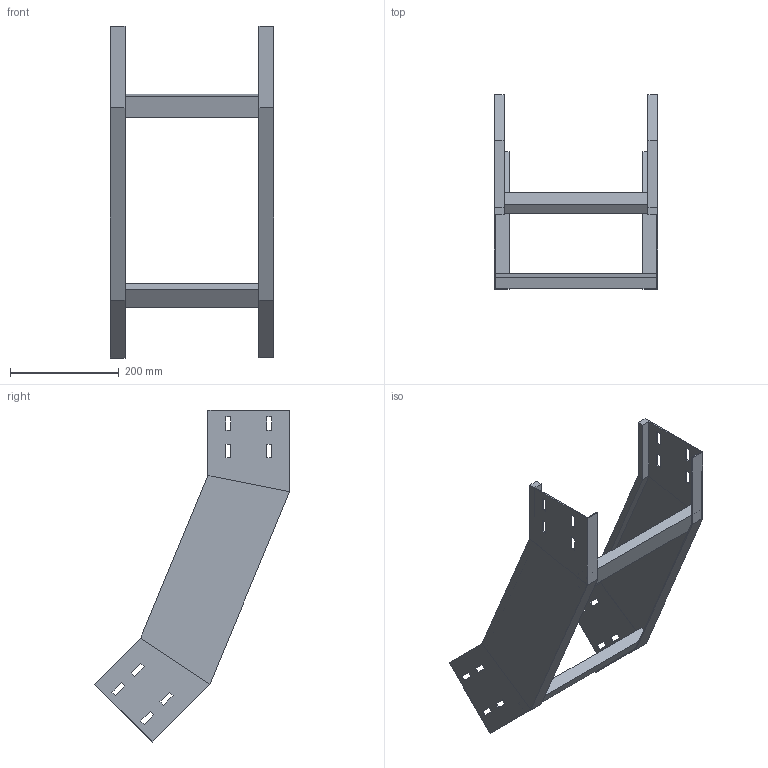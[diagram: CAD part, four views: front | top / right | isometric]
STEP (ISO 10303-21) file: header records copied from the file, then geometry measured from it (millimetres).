
FILE_DESCRIPTION (( 'STEP AP214' ), '1' );
FILE_NAME ('31J5F300.step', '2025-02-21T16:26:14', ( '' ), ( '' ), 'SwSTEP 2.0', 'SolidWorks 2023', '' );
FILE_SCHEMA (( 'AUTOMOTIVE_DESIGN' ));
Length unit declared in the file: millimetre
Products named in the file (3): TRAVERSINO_300; LONGH.SALITA_45°_H150_R500; 31J5F300
Assembly tree (4 placements, depth 2):
  31J5F300
    LONGH.SALITA_45°_H150_R500  x2
    TRAVERSINO_300  x2
Bounding box: 300 x 358.7 x 609.91 mm (x, y, z)
Volume: 1132812 mm3; surface area: 555598.1 mm2
Topology: 4 solids, 4 shells, 128 faces, 328 edges, 208 vertices
Faces by surface type: plane 128
Entity records: 2016 total; most frequent: CARTESIAN_POINT 339, ORIENTED_EDGE 328, DIRECTION 306, LINE 164, EDGE_CURVE 164, VECTOR 164, VERTEX_POINT 104, EDGE_LOOP 80
